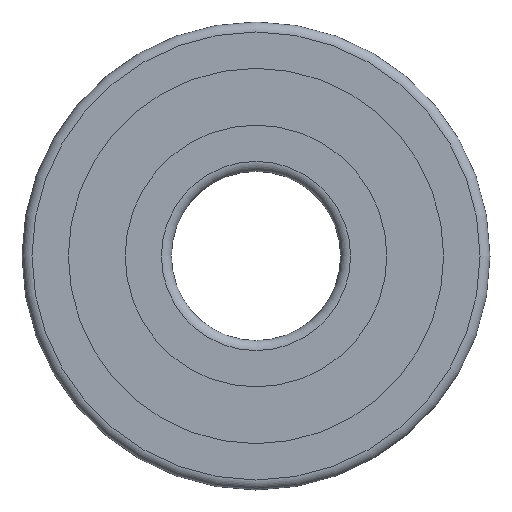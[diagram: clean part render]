
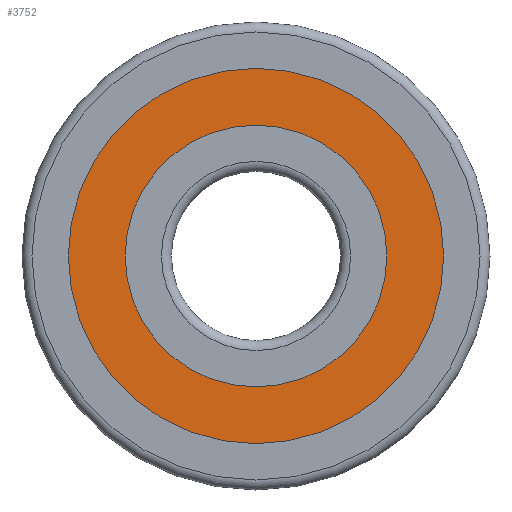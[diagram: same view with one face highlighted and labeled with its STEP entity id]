
A CAD part, left-side view. The second image highlights one B-rep face of the part: STEP entity #3752.
In plain terms, the highlighted planar face has unit normal (-1, 0, 0).
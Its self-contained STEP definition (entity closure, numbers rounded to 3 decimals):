
#388=FACE_BOUND('',#868,.T.);
#420=PLANE('',#4424);
#657=FACE_OUTER_BOUND('',#867,.T.);
#867=EDGE_LOOP('',(#3456));
#868=EDGE_LOOP('',(#3457));
#1288=CIRCLE('',#4425,18.846);
#1289=CIRCLE('',#4426,13.142);
#1688=VERTEX_POINT('',#8591);
#1689=VERTEX_POINT('',#8593);
#2278=EDGE_CURVE('',#1688,#1688,#1288,.T.);
#2279=EDGE_CURVE('',#1689,#1689,#1289,.T.);
#3456=ORIENTED_EDGE('',*,*,#2278,.F.);
#3457=ORIENTED_EDGE('',*,*,#2279,.T.);
#3752=ADVANCED_FACE('',(#657,#388),#420,.T.);
#4424=AXIS2_PLACEMENT_3D('',#8590,#5551,#5552);
#4425=AXIS2_PLACEMENT_3D('',#8592,#5553,#5554);
#4426=AXIS2_PLACEMENT_3D('',#8594,#5555,#5556);
#5551=DIRECTION('center_axis',(-1.,0.,0.));
#5552=DIRECTION('ref_axis',(0.,0.,1.));
#5553=DIRECTION('center_axis',(1.,0.,0.));
#5554=DIRECTION('ref_axis',(0.,0.,-1.));
#5555=DIRECTION('center_axis',(1.,0.,0.));
#5556=DIRECTION('ref_axis',(0.,0.,-1.));
#8590=CARTESIAN_POINT('Origin',(-7.,18.846,0.));
#8591=CARTESIAN_POINT('',(-7.,-18.846,0.));
#8592=CARTESIAN_POINT('Origin',(-7.,0.,0.));
#8593=CARTESIAN_POINT('',(-7.,-13.142,0.));
#8594=CARTESIAN_POINT('Origin',(-7.,0.,0.));
